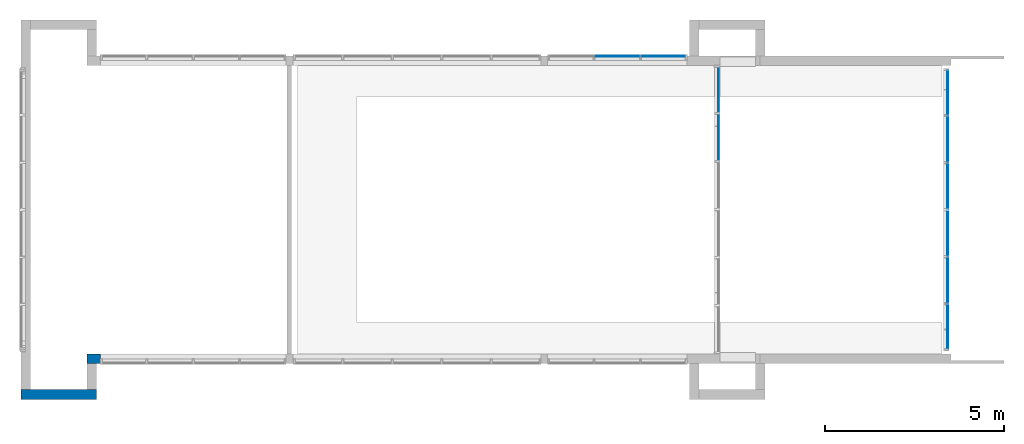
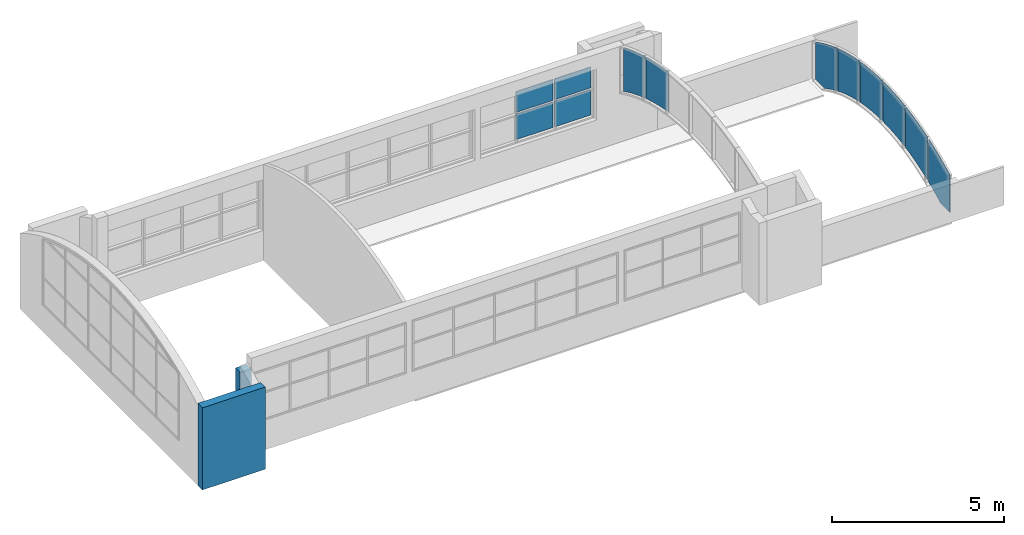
# One storey, part 11 of 14: 18 plates, 2 walls, 4 elements without a shape of their own.
"""IFC2X3 building model written with IfcOpenShell, lengths in metres."""

from ifc_helpers import new_model, entity, si_unit, converted_unit, frame, frame_2d, origin, origin_2d_with_axis, place, context, project, spatial, polyline, circle_curve, parameter, trimmed, segment, composite_curve, rectangle, outline, extrude, source, transform, mapped, material, layer, layer_set, layer_usage, type_object, type_shapes, element, aggregate, save


model = new_model("IFC2X3")

# Units and contexts
model_context = context("Model", 3, precision=1e-09, world=origin())
plan_context = context("Plan", 3, precision=1e-09, world=origin())
ifc_project = project(units=[si_unit("LENGTHUNIT", "METRE"), si_unit("AREAUNIT", "SQUARE_METRE"), si_unit("VOLUMEUNIT", "CUBIC_METRE"), converted_unit("PLANEANGLEUNIT", "DEGREE", entity("IfcRatioMeasure", 0.01745329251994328), si_unit("PLANEANGLEUNIT", "RADIAN"), dimensions=[0, 0, 0, 0, 0, 0, 0]), si_unit("TIMEUNIT", "SECOND")], contexts=[model_context, plan_context])

# Site, building, storey
site_placement = place(None, origin())
site = spatial("IfcSite", under=ifc_project, at=site_placement, Name="Default", CompositionType="ELEMENT")
building_placement = place(site_placement, origin())
building = spatial("IfcBuilding", under=site, at=building_placement, CompositionType="ELEMENT")
storey_placement = place(building_placement, frame((0.0, 0.0, 9.25000000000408)))
storey = spatial("IfcBuildingStorey", under=building, at=storey_placement, Name="Roof - Main", CompositionType="ELEMENT", Elevation=9.25000000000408)

# Curtain wall, plates
curtain_wall_1_placement = place(storey_placement, origin())
curtain_wall_1 = element("IfcCurtainWall", 1, at=curtain_wall_1_placement, inside=storey, Name="Curtain Wall:Storefront", ObjectType="Curtain Wall:Storefront")
ifc_material_1 = material(Name="Glass")
plate_type_1 = type_object("IfcPlateType", Name="Glazed", PredefinedType="CURTAIN_PANEL")
shared_shape_1 = source(origin(), model_context, "Body", "SweptSolid", [
    extrude(outline(composite_curve([segment(polyline([(-0.7017509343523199, -0.6025229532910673), (0.615883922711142, -0.6025229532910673)]), True, "CONTINUOUS"), segment(trimmed(circle_curve(frame_2d((-6.702477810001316, 3.282631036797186), x_axis=(0.9491835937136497, -0.3147229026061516)), 8.28570093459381), [parameter(350.3812571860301)], [parameter(359.702971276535)], True, "PARAMETER"), True, "CONTINUOUS"), segment(polyline([(1.148549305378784, 0.6341950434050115), (-0.3609313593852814, 0.6341950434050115)]), True, "CONTINUOUS"), segment(trimmed(circle_curve(frame_2d((-6.669792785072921, 3.284689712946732), x_axis=(0.8711951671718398, -0.4909368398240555)), 6.843015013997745), [parameter(0.1100252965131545)], [parameter(6.613803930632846)], True, "PARAMETER"), False, "CONTINUOUS"), segment(polyline([(-0.7017509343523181, -0.06334418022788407), (-0.7017509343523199, -0.6025229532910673)]), True, "CONTINUOUS")], self_intersect=False)), frame((-0.0158360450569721, 0.02450000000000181, 0.7017509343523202), z_axis=(0.0, 1.0, 0.0), x_axis=(0.0, 0.0, 1.0)), (0.0, 0.0, 1.0), 0.025),
])
type_shapes(plate_type_1, [shared_shape_1])
plate_1_placement = place(storey_placement, frame((-15.23000000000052, 34.96204499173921, 0.0499999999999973), z_axis=(0.0, 0.0, 1.0), x_axis=(0.0, -1.0, 0.0)))
plate_1 = element("IfcPlate", 2, at=plate_1_placement, type_object=plate_type_1, material=ifc_material_1, Name="System Panel:Glazed:Glazed", ObjectType="Glazed", context=model_context, shape_type="MappedRepresentation", body=[
    mapped(shared_shape_1, transform((0.0, 0.0, 0.0), scale=1.0)),
])
plate_type_2 = type_object("IfcPlateType", Name="Glazed", PredefinedType="CURTAIN_PANEL")
shared_shape_2 = source(origin(), model_context, "Body", "SweptSolid", [
    extrude(outline(composite_curve([segment(polyline([(-0.9253458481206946, -0.6308589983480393), (0.5800508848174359, -0.6308589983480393)]), True, "CONTINUOUS"), segment(trimmed(circle_curve(frame_2d((-7.28766608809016, 1.967576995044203), x_axis=(0.9875410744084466, -0.1573614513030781)), 8.285700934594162), [parameter(350.7771681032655)], [parameter(359.7697748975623)], True, "PARAMETER"), True, "CONTINUOUS"), segment(polyline([(0.8894987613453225, 0.6308589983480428), (-0.5442037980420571, 0.6308589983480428)]), True, "CONTINUOUS"), segment(trimmed(circle_curve(frame_2d((-7.25498106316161, 1.969635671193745), x_axis=(0.9222897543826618, -0.3864991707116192)), 6.843015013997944), [parameter(0.4018111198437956)], [parameter(11.45465048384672)], True, "PARAMETER"), False, "CONTINUOUS")], self_intersect=False)), frame((0.0, 0.02450000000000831, 0.9253458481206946), z_axis=(0.0, 1.0, 0.0), x_axis=(0.0, 0.0, 1.0)), (0.0, 0.0, 1.0), 0.02499999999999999),
])
type_shapes(plate_type_2, [shared_shape_2])
plate_2_placement = place(storey_placement, frame((-15.23000000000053, 33.66282699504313, 0.4115933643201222), z_axis=(0.0, 0.0, 1.0), x_axis=(0.0, -1.0, 0.0)))
plate_2 = element("IfcPlate", 3, at=plate_2_placement, type_object=plate_type_2, material=ifc_material_1, Name="System Panel:Glazed:Glazed", ObjectType="Glazed", context=model_context, shape_type="MappedRepresentation", body=[
    mapped(shared_shape_2, transform((0.0, 0.0, 0.0), scale=1.0)),
])
plate_type_3 = type_object("IfcPlateType", Name="Glazed", PredefinedType="CURTAIN_PANEL")
shared_shape_3 = source(origin(), model_context, "Body", "SweptSolid", [
    extrude(outline(composite_curve([segment(polyline([(-0.7716900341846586, -0.6308589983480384), (0.6602477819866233, -0.6308589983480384)]), True, "CONTINUOUS"), segment(trimmed(circle_curve(frame_2d((-7.524933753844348, 0.6558589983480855), x_axis=(1.0, 0.0)), 8.285700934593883), [parameter(351.0661638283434)], [parameter(359.8271242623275)], True, "PARAMETER"), True, "CONTINUOUS"), segment(polyline([(0.760729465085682, 0.6308589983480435), (-0.6492872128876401, 0.6308589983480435)]), True, "CONTINUOUS"), segment(trimmed(circle_curve(frame_2d((-7.492248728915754, 0.6579176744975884), x_axis=(0.9811197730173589, -0.1934011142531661)), 6.843015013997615), [parameter(0.2957254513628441)], [parameter(10.92477647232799)], True, "PARAMETER"), False, "CONTINUOUS")], self_intersect=False)), frame((0.0, 0.02450000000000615, 0.7716900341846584), z_axis=(0.0, 1.0, 0.0), x_axis=(0.0, 0.0, 1.0)), (0.0, 0.0, 1.0), 0.025),
])
type_shapes(plate_type_3, [shared_shape_3])
plate_3_placement = place(storey_placement, frame((-15.23000000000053, 32.35110899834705, 0.8025168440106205), z_axis=(0.0, 0.0, 1.0), x_axis=(0.0, -1.0, 0.0)))
plate_3 = element("IfcPlate", 4, at=plate_3_placement, type_object=plate_type_3, material=ifc_material_1, Name="System Panel:Glazed:Glazed", ObjectType="Glazed", context=model_context, shape_type="MappedRepresentation", body=[
    mapped(shared_shape_3, transform((0.0, 0.0, 0.0), scale=1.0)),
])
plate_type_4 = type_object("IfcPlateType", Name="Glazed", PredefinedType="CURTAIN_PANEL")
shared_shape_4 = source(origin(), model_context, "Body", "SweptSolid", [
    extrude(outline(composite_curve([segment(trimmed(circle_curve(frame_2d((-7.492449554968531, 0.6538003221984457), x_axis=(0.9999999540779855, 0.0003030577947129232)), 6.843015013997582), [parameter(349.1621254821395)], [parameter(359.7905506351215)], True, "PARAMETER"), False, "CONTINUOUS"), segment(polyline([(-0.7711025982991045, -0.6308589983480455), (0.6600469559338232, -0.6308589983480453)]), True, "CONTINUOUS"), segment(trimmed(circle_curve(frame_2d((-7.525134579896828, 0.6558589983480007), x_axis=(0.9875410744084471, -0.1573614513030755)), 8.285700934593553), [parameter(0.1199422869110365)], [parameter(8.880902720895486)], True, "PARAMETER"), True, "CONTINUOUS"), segment(polyline([(0.7605286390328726, 0.6308589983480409), (-0.6494729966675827, 0.6308589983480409)]), True, "CONTINUOUS")], self_intersect=False)), frame((0.0, 0.02450000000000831, 0.7711025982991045), z_axis=(0.0, -1.0, 0.0), x_axis=(0.0, 0.0, 1.0)), (0.0, 0.0, -1.0), 0.025),
])
type_shapes(plate_type_4, [shared_shape_4])
plate_4_placement = place(storey_placement, frame((-15.23000000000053, 31.03939100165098, 0.8033051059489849), z_axis=(0.0, 0.0, 1.0), x_axis=(0.0, -1.0, 0.0)))
plate_4 = element("IfcPlate", 5, at=plate_4_placement, type_object=plate_type_4, material=ifc_material_1, Name="System Panel:Glazed:Glazed", ObjectType="Glazed", context=model_context, shape_type="MappedRepresentation", body=[
    mapped(shared_shape_4, transform((0.0, 0.0, 0.0), scale=1.0)),
])
plate_type_5 = type_object("IfcPlateType", Name="Glazed", PredefinedType="CURTAIN_PANEL")
shared_shape_5 = source(origin(), model_context, "Body", "SweptSolid", [
    extrude(outline(composite_curve([segment(trimmed(circle_curve(frame_2d((-7.255608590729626, 1.965518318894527), x_axis=(0.9812390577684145, -0.1927949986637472)), 6.843015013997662), [parameter(348.8181764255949)], [parameter(359.8689018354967)], True, "PARAMETER"), False, "CONTINUOUS"), segment(polyline([(-0.9242833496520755, -0.6308589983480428), (0.5794233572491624, -0.6308589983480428)]), True, "CONTINUOUS"), segment(trimmed(circle_curve(frame_2d((-7.288293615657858, 1.967576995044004), x_axis=(0.9491835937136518, -0.3147229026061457)), 8.285700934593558), [parameter(0.06747613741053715)], [parameter(9.060082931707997)], True, "PARAMETER"), True, "CONTINUOUS"), segment(polyline([(0.88887123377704, 0.6308589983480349), (-0.5440112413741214, 0.6308589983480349)]), True, "CONTINUOUS")], self_intersect=False)), frame((0.0, 0.02450000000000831, 0.9242833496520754), z_axis=(0.0, -1.0, 0.0), x_axis=(0.0, 0.0, 1.0)), (0.0, 0.0, -1.0), 0.02499999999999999),
])
type_shapes(plate_type_5, [shared_shape_5])
plate_5_placement = place(storey_placement, frame((-15.23000000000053, 29.7276730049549, 0.4132833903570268), z_axis=(0.0, 0.0, 1.0), x_axis=(0.0, -1.0, 0.0)))
plate_5 = element("IfcPlate", 6, at=plate_5_placement, type_object=plate_type_5, material=ifc_material_1, Name="System Panel:Glazed:Glazed", ObjectType="Glazed", context=model_context, shape_type="MappedRepresentation", body=[
    mapped(shared_shape_5, transform((0.0, 0.0, 0.0), scale=1.0)),
])
plate_type_6 = type_object("IfcPlateType", Name="Glazed", PredefinedType="CURTAIN_PANEL")
shared_shape_6 = source(origin(), model_context, "Body", "SweptSolid", [
    extrude(outline(composite_curve([segment(polyline([(-0.6219994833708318, -0.3324107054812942), (-0.4155229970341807, -0.8260281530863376)]), True, "CONTINUOUS"), segment(polyline([(-0.4155229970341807, -0.8260281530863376), (0.8000525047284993, -0.3175620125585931)]), True, "CONTINUOUS"), segment(trimmed(circle_curve(frame_2d((-7.450708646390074, 0.4425566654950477), x_axis=(0.995445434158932, -0.0953330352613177)), 8.285700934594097), [parameter(0.206852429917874)], [parameter(9.528566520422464)], True, "PARAMETER"), True, "CONTINUOUS"), segment(polyline([(0.8142186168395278, 1.028916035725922), (-0.5767486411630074, 0.4470848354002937)]), True, "CONTINUOUS"), segment(trimmed(circle_curve(frame_2d((-7.419760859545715, 0.453270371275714), x_axis=(1.0, 0.0)), 6.843015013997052), [parameter(353.407042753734)], [parameter(359.9482092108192)], True, "PARAMETER"), False, "CONTINUOUS")], self_intersect=False)), frame((0.01665951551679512, 0.02449999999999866, 0.7020965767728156), z_axis=(0.0, -1.0, 0.0), x_axis=(0.3858930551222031, 0.0, 0.9225435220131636)), (0.0, 0.0, -1.0), 0.02499999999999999),
])
type_shapes(plate_type_6, [shared_shape_6])
plate_6_placement = place(storey_placement, frame((-15.23000000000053, 28.42845500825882, 0.04999999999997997), z_axis=(0.0, 0.0, 1.0), x_axis=(0.0, -1.0, 0.0)))
plate_6 = element("IfcPlate", 7, at=plate_6_placement, type_object=plate_type_6, material=ifc_material_1, Name="System Panel:Glazed:Glazed", ObjectType="Glazed", context=model_context, shape_type="MappedRepresentation", body=[
    mapped(shared_shape_6, transform((0.0, 0.0, 0.0), scale=1.0)),
])
aggregate(curtain_wall_1, [plate_1, plate_2, plate_3, plate_4, plate_5, plate_6])

curtain_wall_2_placement = place(storey_placement, origin())
curtain_wall_2 = element("IfcCurtainWall", 8, at=curtain_wall_2_placement, inside=storey, Name="Curtain Wall:Storefront", ObjectType="Curtain Wall:Storefront")
plate_type_7 = type_object("IfcPlateType", Name="Glazed", PredefinedType="CURTAIN_PANEL")
shared_shape_7 = source(origin(), model_context, "Body", "SweptSolid", [
    extrude(outline(composite_curve([segment(polyline([(-0.8780929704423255, -0.6328733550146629), (-0.2852737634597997, -0.6328733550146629)]), True, "CONTINUOUS"), segment(polyline([(-0.2852737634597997, -0.6328733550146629), (0.6784207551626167, -0.6328733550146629)]), True, "CONTINUOUS"), segment(trimmed(circle_curve(frame_2d((-8.641630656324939, 3.339530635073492), x_axis=(0.9646893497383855, -0.2633903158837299)), 10.13130553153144), [parameter(352.1865936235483)], [parameter(359.7761179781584)], True, "PARAMETER"), True, "CONTINUOUS"), segment(polyline([(1.121430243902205, 0.6328733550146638), (-0.2852737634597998, 0.6328733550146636)]), True, "CONTINUOUS"), segment(polyline([(-0.2852737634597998, 0.6328733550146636), (-0.3512105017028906, 0.6328733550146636)]), True, "CONTINUOUS"), segment(trimmed(circle_curve(frame_2d((-8.637313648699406, 3.339530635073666), x_axis=(0.88577888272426, -0.464107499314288)), 8.716966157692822), [parameter(0.5418844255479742)], [parameter(9.562839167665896)], True, "PARAMETER"), False, "CONTINUOUS")], self_intersect=False)), frame((0.0, 0.02450000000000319, 0.8780929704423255), z_axis=(0.0, 1.0, 0.0), x_axis=(0.0, 0.0, 1.0)), (0.0, 0.0, 1.0), 0.025),
])
type_shapes(plate_type_7, [shared_shape_7])
plate_7_placement = place(storey_placement, frame((-21.61957995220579, 35.03461677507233, 1.807180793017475), z_axis=(0.0, 0.0, 1.0), x_axis=(0.0, -1.0, 0.0)))
plate_7 = element("IfcPlate", 9, at=plate_7_placement, type_object=plate_type_7, material=ifc_material_1, Name="System Panel:Glazed:Glazed", ObjectType="Glazed", context=model_context, shape_type="MappedRepresentation", body=[
    mapped(shared_shape_7, transform((0.0, 0.0, 0.0), scale=1.0)),
])
plate_type_8 = type_object("IfcPlateType", Name="Glazed", PredefinedType="CURTAIN_PANEL")
shared_shape_8 = source(origin(), model_context, "Body", "SweptSolid", [
    extrude(outline(composite_curve([segment(polyline([(-0.5597558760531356, -0.4849475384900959), (0.8606721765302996, -0.4849475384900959)]), True, "CONTINUOUS"), segment(trimmed(circle_curve(frame_2d((-8.916112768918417, 2.171709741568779), x_axis=(0.9912891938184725, -0.1317032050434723)), 10.13130553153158), [parameter(352.3660407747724)], [parameter(359.8197682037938)], True, "PARAMETER"), True, "CONTINUOUS"), segment(polyline([(1.122693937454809, 0.8057991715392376), (-0.3025108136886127, 0.8057991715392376)]), True, "CONTINUOUS"), segment(trimmed(circle_curve(frame_2d((-8.911795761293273, 2.171709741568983), x_axis=(0.9636636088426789, -0.2671187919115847)), 8.716966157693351), [parameter(0.0)], [parameter(6.477738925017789)], True, "PARAMETER"), False, "CONTINUOUS"), segment(trimmed(circle_curve(frame_2d((-8.911795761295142, 2.171709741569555), x_axis=(0.9509283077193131, -0.3094113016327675)), 8.716966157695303), [parameter(0.2795155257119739)], [parameter(2.530866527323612)], True, "PARAMETER"), False, "CONTINUOUS"), segment(polyline([(-0.6095267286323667, -0.4849475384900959), (-0.5597558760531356, -0.4849475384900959)]), True, "CONTINUOUS")], self_intersect=False)), frame((-0.1604258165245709, 0.02450000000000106, 0.6095267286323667), z_axis=(0.0, 1.0, 0.0), x_axis=(0.0, 0.0, 1.0)), (0.0, 0.0, 1.0), 0.025),
])
type_shapes(plate_type_8, [shared_shape_8])
plate_8_placement = place(storey_placement, frame((-21.61957995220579, 33.706370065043, 2.350229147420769), z_axis=(0.0, 0.0, 1.0), x_axis=(0.0, -1.0, 0.0)))
plate_8 = element("IfcPlate", 10, at=plate_8_placement, type_object=plate_type_8, material=ifc_material_1, Name="System Panel:Glazed:Glazed", ObjectType="Glazed", context=model_context, shape_type="MappedRepresentation", body=[
    mapped(shared_shape_8, transform((0.0, 0.0, 0.0), scale=1.0)),
])
aggregate(curtain_wall_2, [plate_7, plate_8])

curtain_wall_3_placement = place(storey_placement, origin())
curtain_wall_3 = element("IfcCurtainWall", 11, at=curtain_wall_3_placement, inside=storey, Name="Curtain Wall:Storefront", ObjectType="Curtain Wall:Storefront")
plate_type_9 = type_object("IfcPlateType", Name="Glazed", PredefinedType="CURTAIN_PANEL")
shared_shape_9 = source(origin(), model_context, "Body", "SweptSolid", [
    extrude(rectangle(XDim=0.025, YDim=1.246666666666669, at=origin_2d_with_axis()), frame((0.0, 0.03700000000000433, 0.0), z_axis=(0.0, 0.0, 1.0), x_axis=(0.0, 1.0, 0.0)), (0.0, 0.0, 1.0), 0.9118944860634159),
])
type_shapes(plate_type_9, [shared_shape_9])
plate_9_placement = place(storey_placement, frame((-24.405, 35.93490399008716, 1.117)))
plate_9 = element("IfcPlate", 12, at=plate_9_placement, type_object=plate_type_9, material=ifc_material_1, Name="System Panel:Glazed:Glazed", ObjectType="Glazed", context=model_context, shape_type="MappedRepresentation", body=[
    mapped(shared_shape_9, transform((0.0, 0.0, 0.0), scale=1.0)),
])
plate_type_10 = type_object("IfcPlateType", Name="Glazed", PredefinedType="CURTAIN_PANEL")
shared_shape_10 = source(origin(), model_context, "Body", "SweptSolid", [
    extrude(rectangle(XDim=0.025, YDim=1.221666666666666, at=origin_2d_with_axis()), frame((0.0, 0.03700000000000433, 0.0), z_axis=(0.0, 0.0, 1.0), x_axis=(0.0, 1.0, 0.0)), (0.0, 0.0, 1.0), 0.9118944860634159),
])
type_shapes(plate_type_10, [shared_shape_10])
plate_10_placement = place(storey_placement, frame((-23.12083333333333, 35.93490399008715, 1.117)))
plate_10 = element("IfcPlate", 13, at=plate_10_placement, type_object=plate_type_10, material=ifc_material_1, Name="System Panel:Glazed:Glazed", ObjectType="Glazed", context=model_context, shape_type="MappedRepresentation", body=[
    mapped(shared_shape_10, transform((0.0, 0.0, 0.0), scale=1.0)),
])
plate_type_11 = type_object("IfcPlateType", Name="Glazed", PredefinedType="CURTAIN_PANEL")
shared_shape_11 = source(origin(), model_context, "Body", "SweptSolid", [
    extrude(rectangle(XDim=0.025, YDim=1.246666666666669, at=origin_2d_with_axis()), frame((0.0, 0.03700000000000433, 0.0), z_axis=(0.0, 0.0, 1.0), x_axis=(0.0, 1.0, 0.0)), (0.0, 0.0, 1.0), 0.7381055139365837),
])
type_shapes(plate_type_11, [shared_shape_11])
plate_11_placement = place(storey_placement, frame((-24.405, 35.93490399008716, 2.078894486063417)))
plate_11 = element("IfcPlate", 14, at=plate_11_placement, type_object=plate_type_11, material=ifc_material_1, Name="System Panel:Glazed:Glazed", ObjectType="Glazed", context=model_context, shape_type="MappedRepresentation", body=[
    mapped(shared_shape_11, transform((0.0, 0.0, 0.0), scale=1.0)),
])
plate_type_12 = type_object("IfcPlateType", Name="Glazed", PredefinedType="CURTAIN_PANEL")
shared_shape_12 = source(origin(), model_context, "Body", "SweptSolid", [
    extrude(rectangle(XDim=0.025, YDim=1.221666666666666, at=origin_2d_with_axis()), frame((0.0, 0.03700000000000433, 0.0), z_axis=(0.0, 0.0, 1.0), x_axis=(0.0, 1.0, 0.0)), (0.0, 0.0, 1.0), 0.7381055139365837),
])
type_shapes(plate_type_12, [shared_shape_12])
plate_12_placement = place(storey_placement, frame((-23.12083333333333, 35.93490399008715, 2.078894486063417)))
plate_12 = element("IfcPlate", 15, at=plate_12_placement, type_object=plate_type_12, material=ifc_material_1, Name="System Panel:Glazed:Glazed", ObjectType="Glazed", context=model_context, shape_type="MappedRepresentation", body=[
    mapped(shared_shape_12, transform((0.0, 0.0, 0.0), scale=1.0)),
])
aggregate(curtain_wall_3, [plate_9, plate_10, plate_11, plate_12])

curtain_wall_4_placement = place(storey_placement, origin())
curtain_wall_4 = element("IfcCurtainWall", 16, at=curtain_wall_4_placement, inside=storey, Name="Curtain Wall:Storefront", ObjectType="Curtain Wall:Storefront")
plate_type_13 = type_object("IfcPlateType", Name="Glazed", PredefinedType="CURTAIN_PANEL")
shared_shape_13 = source(origin(), model_context, "Body", "SweptSolid", [
    extrude(outline(composite_curve([segment(polyline([(-0.7017509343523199, -0.6025229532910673), (0.615883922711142, -0.6025229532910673)]), True, "CONTINUOUS"), segment(trimmed(circle_curve(frame_2d((-6.702477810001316, 3.282631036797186), x_axis=(0.9491835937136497, -0.3147229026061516)), 8.28570093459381), [parameter(350.3812571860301)], [parameter(359.702971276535)], True, "PARAMETER"), True, "CONTINUOUS"), segment(polyline([(1.148549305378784, 0.6341950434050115), (-0.3609313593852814, 0.6341950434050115)]), True, "CONTINUOUS"), segment(trimmed(circle_curve(frame_2d((-6.669792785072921, 3.284689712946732), x_axis=(0.8711951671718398, -0.4909368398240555)), 6.843015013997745), [parameter(0.1100252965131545)], [parameter(6.613803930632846)], True, "PARAMETER"), False, "CONTINUOUS"), segment(polyline([(-0.7017509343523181, -0.06334418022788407), (-0.7017509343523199, -0.6025229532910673)]), True, "CONTINUOUS")], self_intersect=False)), frame((-0.0158360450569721, -0.04950000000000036, 0.7017509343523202), z_axis=(0.0, 1.0, 0.0), x_axis=(0.0, 0.0, 1.0)), (0.0, 0.0, 1.0), 0.02500000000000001),
])
type_shapes(plate_type_13, [shared_shape_13])
plate_13_placement = place(storey_placement, frame((-15.23000000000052, 28.42845500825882, 0.0499999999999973), z_axis=(0.0, 0.0, 1.0), x_axis=(0.0, 1.0, 0.0)))
plate_13 = element("IfcPlate", 17, at=plate_13_placement, type_object=plate_type_13, material=ifc_material_1, Name="System Panel:Glazed:Glazed", ObjectType="Glazed", context=model_context, shape_type="MappedRepresentation", body=[
    mapped(shared_shape_13, transform((0.0, 0.0, 0.0), scale=1.0)),
])
plate_type_14 = type_object("IfcPlateType", Name="Glazed", PredefinedType="CURTAIN_PANEL")
shared_shape_14 = source(origin(), model_context, "Body", "SweptSolid", [
    extrude(outline(composite_curve([segment(polyline([(-0.9253458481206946, -0.6308589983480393), (0.5800508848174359, -0.6308589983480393)]), True, "CONTINUOUS"), segment(trimmed(circle_curve(frame_2d((-7.28766608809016, 1.967576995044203), x_axis=(0.9875410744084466, -0.1573614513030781)), 8.285700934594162), [parameter(350.7771681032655)], [parameter(359.7697748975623)], True, "PARAMETER"), True, "CONTINUOUS"), segment(polyline([(0.8894987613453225, 0.6308589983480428), (-0.5442037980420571, 0.6308589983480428)]), True, "CONTINUOUS"), segment(trimmed(circle_curve(frame_2d((-7.25498106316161, 1.969635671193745), x_axis=(0.9222897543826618, -0.3864991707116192)), 6.843015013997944), [parameter(0.4018111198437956)], [parameter(11.45465048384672)], True, "PARAMETER"), False, "CONTINUOUS")], self_intersect=False)), frame((0.0, -0.04950000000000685, 0.9253458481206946), z_axis=(0.0, 1.0, 0.0), x_axis=(0.0, 0.0, 1.0)), (0.0, 0.0, 1.0), 0.02499999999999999),
])
type_shapes(plate_type_14, [shared_shape_14])
plate_14_placement = place(storey_placement, frame((-15.23000000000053, 29.7276730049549, 0.4115933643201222), z_axis=(0.0, 0.0, 1.0), x_axis=(0.0, 1.0, 0.0)))
plate_14 = element("IfcPlate", 18, at=plate_14_placement, type_object=plate_type_14, material=ifc_material_1, Name="System Panel:Glazed:Glazed", ObjectType="Glazed", context=model_context, shape_type="MappedRepresentation", body=[
    mapped(shared_shape_14, transform((0.0, 0.0, 0.0), scale=1.0)),
])
plate_type_15 = type_object("IfcPlateType", Name="Glazed", PredefinedType="CURTAIN_PANEL")
shared_shape_15 = source(origin(), model_context, "Body", "SweptSolid", [
    extrude(outline(composite_curve([segment(polyline([(-0.7716900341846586, -0.6308589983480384), (0.6602477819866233, -0.6308589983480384)]), True, "CONTINUOUS"), segment(trimmed(circle_curve(frame_2d((-7.524933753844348, 0.6558589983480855), x_axis=(1.0, 0.0)), 8.285700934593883), [parameter(351.0661638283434)], [parameter(359.8271242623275)], True, "PARAMETER"), True, "CONTINUOUS"), segment(polyline([(0.760729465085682, 0.6308589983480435), (-0.6492872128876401, 0.6308589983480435)]), True, "CONTINUOUS"), segment(trimmed(circle_curve(frame_2d((-7.492248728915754, 0.6579176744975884), x_axis=(0.9811197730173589, -0.1934011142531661)), 6.843015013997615), [parameter(0.2957254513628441)], [parameter(10.92477647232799)], True, "PARAMETER"), False, "CONTINUOUS")], self_intersect=False)), frame((0.0, -0.04950000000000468, 0.7716900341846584), z_axis=(0.0, 1.0, 0.0), x_axis=(0.0, 0.0, 1.0)), (0.0, 0.0, 1.0), 0.025),
])
type_shapes(plate_type_15, [shared_shape_15])
plate_15_placement = place(storey_placement, frame((-15.23000000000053, 31.03939100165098, 0.8025168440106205), z_axis=(0.0, 0.0, 1.0), x_axis=(0.0, 1.0, 0.0)))
plate_15 = element("IfcPlate", 19, at=plate_15_placement, type_object=plate_type_15, material=ifc_material_1, Name="System Panel:Glazed:Glazed", ObjectType="Glazed", context=model_context, shape_type="MappedRepresentation", body=[
    mapped(shared_shape_15, transform((0.0, 0.0, 0.0), scale=1.0)),
])
plate_type_16 = type_object("IfcPlateType", Name="Glazed", PredefinedType="CURTAIN_PANEL")
shared_shape_16 = source(origin(), model_context, "Body", "SweptSolid", [
    extrude(outline(composite_curve([segment(trimmed(circle_curve(frame_2d((-7.492449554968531, 0.6538003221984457), x_axis=(0.9999999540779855, 0.0003030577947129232)), 6.843015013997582), [parameter(349.1621254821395)], [parameter(359.7905506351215)], True, "PARAMETER"), False, "CONTINUOUS"), segment(polyline([(-0.7711025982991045, -0.6308589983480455), (0.6600469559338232, -0.6308589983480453)]), True, "CONTINUOUS"), segment(trimmed(circle_curve(frame_2d((-7.525134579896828, 0.6558589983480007), x_axis=(0.9875410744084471, -0.1573614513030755)), 8.285700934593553), [parameter(0.1199422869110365)], [parameter(8.880902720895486)], True, "PARAMETER"), True, "CONTINUOUS"), segment(polyline([(0.7605286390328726, 0.6308589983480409), (-0.6494729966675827, 0.6308589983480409)]), True, "CONTINUOUS")], self_intersect=False)), frame((0.0, -0.04950000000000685, 0.7711025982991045), z_axis=(0.0, -1.0, 0.0), x_axis=(0.0, 0.0, 1.0)), (0.0, 0.0, -1.0), 0.025),
])
type_shapes(plate_type_16, [shared_shape_16])
plate_16_placement = place(storey_placement, frame((-15.23000000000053, 32.35110899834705, 0.8033051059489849), z_axis=(0.0, 0.0, 1.0), x_axis=(0.0, 1.0, 0.0)))
plate_16 = element("IfcPlate", 20, at=plate_16_placement, type_object=plate_type_16, material=ifc_material_1, Name="System Panel:Glazed:Glazed", ObjectType="Glazed", context=model_context, shape_type="MappedRepresentation", body=[
    mapped(shared_shape_16, transform((0.0, 0.0, 0.0), scale=1.0)),
])
plate_type_17 = type_object("IfcPlateType", Name="Glazed", PredefinedType="CURTAIN_PANEL")
shared_shape_17 = source(origin(), model_context, "Body", "SweptSolid", [
    extrude(outline(composite_curve([segment(trimmed(circle_curve(frame_2d((-7.255608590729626, 1.965518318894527), x_axis=(0.9812390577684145, -0.1927949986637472)), 6.843015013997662), [parameter(348.8181764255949)], [parameter(359.8689018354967)], True, "PARAMETER"), False, "CONTINUOUS"), segment(polyline([(-0.9242833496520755, -0.6308589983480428), (0.5794233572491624, -0.6308589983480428)]), True, "CONTINUOUS"), segment(trimmed(circle_curve(frame_2d((-7.288293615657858, 1.967576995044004), x_axis=(0.9491835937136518, -0.3147229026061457)), 8.285700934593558), [parameter(0.06747613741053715)], [parameter(9.060082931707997)], True, "PARAMETER"), True, "CONTINUOUS"), segment(polyline([(0.88887123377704, 0.6308589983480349), (-0.5440112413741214, 0.6308589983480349)]), True, "CONTINUOUS")], self_intersect=False)), frame((0.0, -0.04950000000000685, 0.9242833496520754), z_axis=(0.0, -1.0, 0.0), x_axis=(0.0, 0.0, 1.0)), (0.0, 0.0, -1.0), 0.02499999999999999),
])
type_shapes(plate_type_17, [shared_shape_17])
plate_17_placement = place(storey_placement, frame((-15.23000000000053, 33.66282699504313, 0.4132833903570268), z_axis=(0.0, 0.0, 1.0), x_axis=(0.0, 1.0, 0.0)))
plate_17 = element("IfcPlate", 21, at=plate_17_placement, type_object=plate_type_17, material=ifc_material_1, Name="System Panel:Glazed:Glazed", ObjectType="Glazed", context=model_context, shape_type="MappedRepresentation", body=[
    mapped(shared_shape_17, transform((0.0, 0.0, 0.0), scale=1.0)),
])
plate_type_18 = type_object("IfcPlateType", Name="Glazed", PredefinedType="CURTAIN_PANEL")
shared_shape_18 = source(origin(), model_context, "Body", "SweptSolid", [
    extrude(outline(composite_curve([segment(polyline([(-0.6219994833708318, -0.3324107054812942), (-0.4155229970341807, -0.8260281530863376)]), True, "CONTINUOUS"), segment(polyline([(-0.4155229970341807, -0.8260281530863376), (0.8000525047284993, -0.3175620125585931)]), True, "CONTINUOUS"), segment(trimmed(circle_curve(frame_2d((-7.450708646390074, 0.4425566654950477), x_axis=(0.995445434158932, -0.0953330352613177)), 8.285700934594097), [parameter(0.206852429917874)], [parameter(9.528566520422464)], True, "PARAMETER"), True, "CONTINUOUS"), segment(polyline([(0.8142186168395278, 1.028916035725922), (-0.5767486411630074, 0.4470848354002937)]), True, "CONTINUOUS"), segment(trimmed(circle_curve(frame_2d((-7.419760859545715, 0.453270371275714), x_axis=(1.0, 0.0)), 6.843015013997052), [parameter(353.407042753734)], [parameter(359.9482092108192)], True, "PARAMETER"), False, "CONTINUOUS")], self_intersect=False)), frame((0.01665951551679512, -0.0494999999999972, 0.7020965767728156), z_axis=(0.0, -1.0, 0.0), x_axis=(0.3858930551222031, 0.0, 0.9225435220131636)), (0.0, 0.0, -1.0), 0.02499999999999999),
])
type_shapes(plate_type_18, [shared_shape_18])
plate_18_placement = place(storey_placement, frame((-15.23000000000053, 34.96204499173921, 0.04999999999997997), z_axis=(0.0, 0.0, 1.0), x_axis=(0.0, 1.0, 0.0)))
plate_18 = element("IfcPlate", 22, at=plate_18_placement, type_object=plate_type_18, material=ifc_material_1, Name="System Panel:Glazed:Glazed", ObjectType="Glazed", context=model_context, shape_type="MappedRepresentation", body=[
    mapped(shared_shape_18, transform((0.0, 0.0, 0.0), scale=1.0)),
])
aggregate(curtain_wall_4, [plate_13, plate_14, plate_15, plate_16, plate_17, plate_18])

# Walls
ifc_material_2 = material(Name="Insulation - Insulated Panel")
ifc_layer_1 = layer(ifc_material_2, 0.042)
ifc_material_3 = material(Name="Metal - Firring")
ifc_layer_2 = layer(ifc_material_3, 0.038)
ifc_material_4 = material(Name="Wood - Sheathing - plywood")
ifc_layer_3 = layer(ifc_material_4, 0.019)
ifc_material_5 = material(Name="Metal - Stud Layer")
ifc_layer_4 = layer(ifc_material_5, 0.152)
ifc_material_6 = material(Name="Plasterboard")
ifc_layer_5 = layer(ifc_material_6, 0.016)
ifc_layer_set = layer_set([ifc_layer_1, ifc_layer_2, ifc_layer_3, ifc_layer_4, ifc_layer_5], Name="Basic Wall:Exterior - Insul Panel on Mtl. Stud")
ifc_layer_usage_1 = layer_usage(ifc_layer_set, "AXIS2", "POSITIVE", -0.1335)
wall_1_placement = place(storey_placement, frame((-41.04000000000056, 26.53900986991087, 0.1199999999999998)))
element("IfcWallStandardCase", 23, at=wall_1_placement, inside=storey, material=ifc_layer_usage_1, Name="Basic Wall:Exterior - Insul Panel on Mtl. Stud", ObjectType="Basic Wall:Exterior - Insul Panel on Mtl. Stud", context=model_context, shape_type="SweptSolid", body=[
    extrude(rectangle(XDim=2.106046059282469, YDim=0.267, at=frame_2d((1.053023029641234, 0.0), x_axis=(-1.0, 0.0))), origin(), (0.0, 0.0, 1.0), 2.908195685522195),
])
ifc_layer_usage_2 = layer_usage(ifc_layer_set, "AXIS2", "POSITIVE", -0.1335)
wall_2_placement = place(storey_placement, frame((-39.20095394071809, 27.53900986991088, 0.1199999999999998)))
element("IfcWallStandardCase", 24, at=wall_2_placement, inside=storey, material=ifc_layer_usage_2, Name="Basic Wall:Exterior - Insul Panel on Mtl. Stud", ObjectType="Basic Wall:Exterior - Insul Panel on Mtl. Stud", context=model_context, shape_type="SweptSolid", body=[
    extrude(rectangle(XDim=0.3749539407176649, YDim=0.267, at=frame_2d((0.1874769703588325, 0.0), x_axis=(-1.0, 0.0))), origin(), (0.0, 0.0, 1.0), 2.908195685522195),
])

save(model, "model.ifc")
